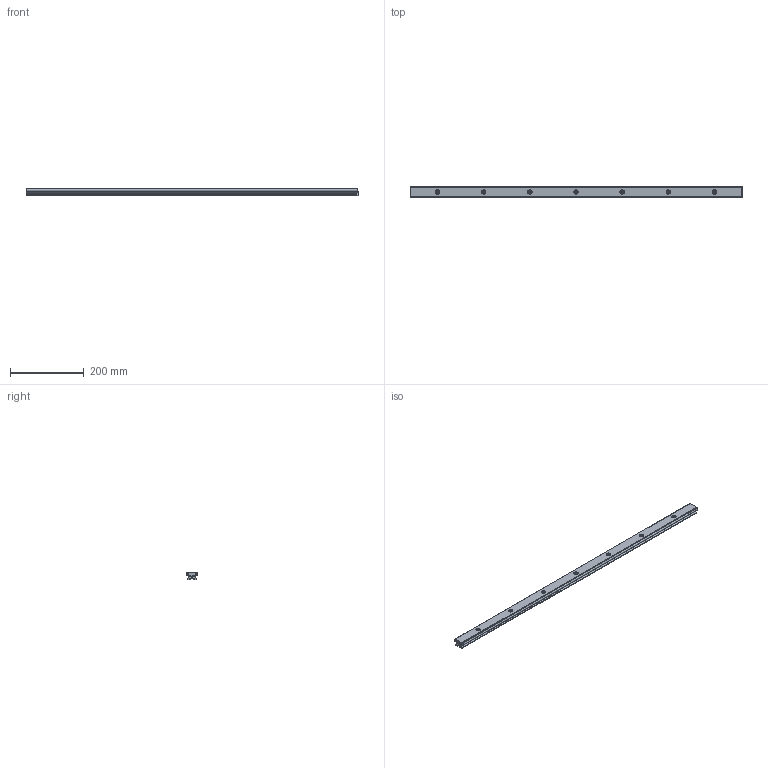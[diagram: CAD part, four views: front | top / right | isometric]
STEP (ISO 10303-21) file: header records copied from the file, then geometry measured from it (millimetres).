
FILE_DESCRIPTION(/* description */ ('Unknown'),/* implementation_level */ '2;1');
FILE_NAME(/* name */ 'Schiene_HLF32_900',/* time_stamp */ '2022-01-26T23:40:29+01:00',/* author */ ('Unknown'),/* organization */ ('Unknown'),/* preprocessor_version */ 'ST-DEVELOPER v16.7',/* originating_system */ 'Solid Edge',/* authorisation */ 'Unknown');
FILE_SCHEMA (('AUTOMOTIVE_DESIGN {1 0 10303 214 3 1 1}'));
Length unit declared in the file: millimetre
Products named in the file (6): Schiene_HLF32_900; HLF32_Profil_oben_900_gebohrt; Welle_Dm_6-900_lang; HLF32_Profil_unten-900; din_7984_10_9_m_6x12; mutter_din_557-m6_m_5
Assembly tree (18 placements, depth 2):
  Schiene_HLF32_900
    HLF32_Profil_oben_900_gebohrt
    Welle_Dm_6-900_lang  x2
    HLF32_Profil_unten-900
    din_7984_10_9_m_6x12  x7
    mutter_din_557-m6_m_5  x7
Bounding box: 900 x 32.02 x 20.01 mm (x, y, z)
Volume: 369199.1 mm3; surface area: 202329.9 mm2
Topology: 18 solids, 18 shells, 322 faces, 753 edges, 495 vertices
Faces by surface type: plane 201, cylinder 86, cone 28, torus 7
Full cylindrical faces by diameter (mm): 4.918 x7, 6 x16, 6.6 x7, 10 x7, 12 x7
Entity records: 4382 total; most frequent: DIRECTION 771, CARTESIAN_POINT 719, ORIENTED_EDGE 656, EDGE_CURVE 328, AXIS2_PLACEMENT_3D 285, VERTEX_POINT 233, LINE 201, VECTOR 201
